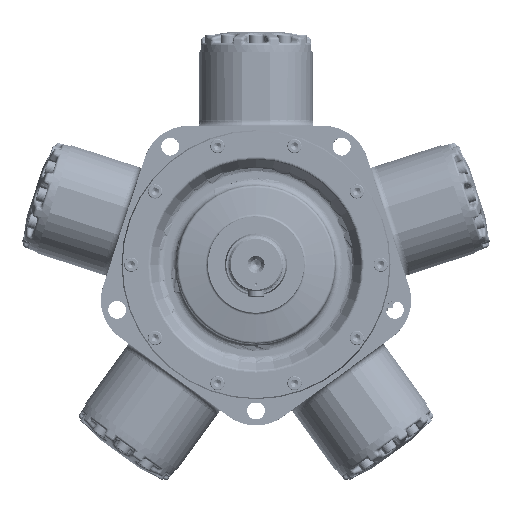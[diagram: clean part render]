
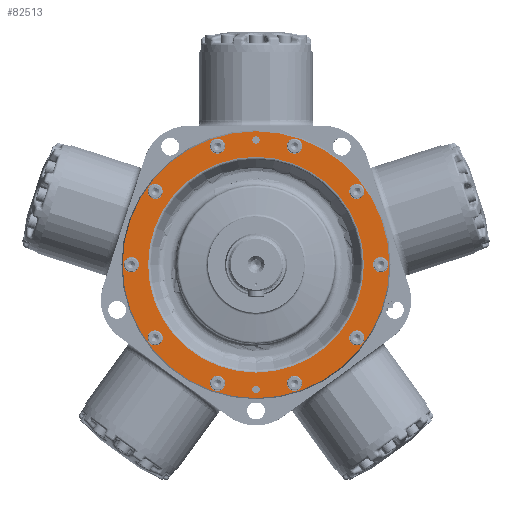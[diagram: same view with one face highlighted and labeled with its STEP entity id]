
A CAD part, top view. The second image highlights one B-rep face of the part: STEP entity #82513.
In plain terms, the highlighted planar face has unit normal (0, 0, 1).
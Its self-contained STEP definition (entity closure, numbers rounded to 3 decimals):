
#1786=FACE_BOUND('',#18631,.T.);
#1787=FACE_BOUND('',#18632,.T.);
#1788=FACE_BOUND('',#18633,.T.);
#1789=FACE_BOUND('',#18634,.T.);
#1790=FACE_BOUND('',#18635,.T.);
#1791=FACE_BOUND('',#18636,.T.);
#1792=FACE_BOUND('',#18637,.T.);
#1793=FACE_BOUND('',#18638,.T.);
#1794=FACE_BOUND('',#18639,.T.);
#1795=FACE_BOUND('',#18640,.T.);
#1796=FACE_BOUND('',#18641,.T.);
#1797=FACE_BOUND('',#18642,.T.);
#1798=FACE_BOUND('',#18643,.T.);
#2132=PLANE('',#88077);
#13345=FACE_OUTER_BOUND('',#18630,.T.);
#18630=EDGE_LOOP('',(#52544));
#18631=EDGE_LOOP('',(#52545));
#18632=EDGE_LOOP('',(#52546));
#18633=EDGE_LOOP('',(#52547));
#18634=EDGE_LOOP('',(#52548));
#18635=EDGE_LOOP('',(#52549));
#18636=EDGE_LOOP('',(#52550));
#18637=EDGE_LOOP('',(#52551));
#18638=EDGE_LOOP('',(#52552));
#18639=EDGE_LOOP('',(#52553));
#18640=EDGE_LOOP('',(#52554));
#18641=EDGE_LOOP('',(#52555));
#18642=EDGE_LOOP('',(#52556));
#18643=EDGE_LOOP('',(#52557));
#24048=CIRCLE('',#88046,4.188);
#24050=CIRCLE('',#88049,4.188);
#24052=CIRCLE('',#88052,8.5);
#24053=CIRCLE('',#88054,8.5);
#24054=CIRCLE('',#88056,8.5);
#24055=CIRCLE('',#88058,8.5);
#24056=CIRCLE('',#88060,8.5);
#24057=CIRCLE('',#88062,8.5);
#24058=CIRCLE('',#88064,8.5);
#24059=CIRCLE('',#88066,8.5);
#24060=CIRCLE('',#88068,8.5);
#24061=CIRCLE('',#88070,8.5);
#24062=CIRCLE('',#88072,149.491);
#24066=CIRCLE('',#88078,120.896);
#31553=VERTEX_POINT('',#137751);
#31555=VERTEX_POINT('',#137757);
#31557=VERTEX_POINT('',#137763);
#31558=VERTEX_POINT('',#137767);
#31559=VERTEX_POINT('',#137771);
#31560=VERTEX_POINT('',#137775);
#31561=VERTEX_POINT('',#137779);
#31562=VERTEX_POINT('',#137783);
#31563=VERTEX_POINT('',#137787);
#31564=VERTEX_POINT('',#137791);
#31565=VERTEX_POINT('',#137795);
#31566=VERTEX_POINT('',#137799);
#31567=VERTEX_POINT('',#137803);
#31571=VERTEX_POINT('',#137815);
#39251=EDGE_CURVE('',#31553,#31553,#24048,.T.);
#39254=EDGE_CURVE('',#31555,#31555,#24050,.T.);
#39258=EDGE_CURVE('',#31557,#31557,#24052,.T.);
#39260=EDGE_CURVE('',#31558,#31558,#24053,.T.);
#39262=EDGE_CURVE('',#31559,#31559,#24054,.T.);
#39264=EDGE_CURVE('',#31560,#31560,#24055,.T.);
#39266=EDGE_CURVE('',#31561,#31561,#24056,.T.);
#39268=EDGE_CURVE('',#31562,#31562,#24057,.T.);
#39270=EDGE_CURVE('',#31563,#31563,#24058,.T.);
#39272=EDGE_CURVE('',#31564,#31564,#24059,.T.);
#39274=EDGE_CURVE('',#31565,#31565,#24060,.T.);
#39276=EDGE_CURVE('',#31566,#31566,#24061,.T.);
#39277=EDGE_CURVE('',#31567,#31567,#24062,.T.);
#39283=EDGE_CURVE('',#31571,#31571,#24066,.T.);
#52544=ORIENTED_EDGE('',*,*,#39277,.F.);
#52545=ORIENTED_EDGE('',*,*,#39251,.T.);
#52546=ORIENTED_EDGE('',*,*,#39254,.T.);
#52547=ORIENTED_EDGE('',*,*,#39258,.T.);
#52548=ORIENTED_EDGE('',*,*,#39260,.T.);
#52549=ORIENTED_EDGE('',*,*,#39262,.T.);
#52550=ORIENTED_EDGE('',*,*,#39264,.T.);
#52551=ORIENTED_EDGE('',*,*,#39266,.T.);
#52552=ORIENTED_EDGE('',*,*,#39268,.T.);
#52553=ORIENTED_EDGE('',*,*,#39270,.T.);
#52554=ORIENTED_EDGE('',*,*,#39272,.T.);
#52555=ORIENTED_EDGE('',*,*,#39274,.T.);
#52556=ORIENTED_EDGE('',*,*,#39276,.T.);
#52557=ORIENTED_EDGE('',*,*,#39283,.T.);
#82513=ADVANCED_FACE('',(#13345,#1786,#1787,#1788,#1789,#1790,#1791,#1792,
#1793,#1794,#1795,#1796,#1797,#1798),#2132,.T.);
#88046=AXIS2_PLACEMENT_3D('',#137752,#96559,#96560);
#88049=AXIS2_PLACEMENT_3D('',#137758,#96566,#96567);
#88052=AXIS2_PLACEMENT_3D('',#137765,#96574,#96575);
#88054=AXIS2_PLACEMENT_3D('',#137769,#96579,#96580);
#88056=AXIS2_PLACEMENT_3D('',#137773,#96584,#96585);
#88058=AXIS2_PLACEMENT_3D('',#137777,#96589,#96590);
#88060=AXIS2_PLACEMENT_3D('',#137781,#96594,#96595);
#88062=AXIS2_PLACEMENT_3D('',#137785,#96599,#96600);
#88064=AXIS2_PLACEMENT_3D('',#137789,#96604,#96605);
#88066=AXIS2_PLACEMENT_3D('',#137793,#96609,#96610);
#88068=AXIS2_PLACEMENT_3D('',#137797,#96614,#96615);
#88070=AXIS2_PLACEMENT_3D('',#137801,#96619,#96620);
#88072=AXIS2_PLACEMENT_3D('',#137804,#96623,#96624);
#88077=AXIS2_PLACEMENT_3D('',#137814,#96635,#96636);
#88078=AXIS2_PLACEMENT_3D('',#137816,#96637,#96638);
#96559=DIRECTION('center_axis',(0.,0.,
-1.));
#96560=DIRECTION('ref_axis',(-1.,0.,0.));
#96566=DIRECTION('center_axis',(0.,0.,
-1.));
#96567=DIRECTION('ref_axis',(-1.,0.,0.));
#96574=DIRECTION('center_axis',(0.,0.,
-1.));
#96575=DIRECTION('ref_axis',(0.809,-0.588,0.));
#96579=DIRECTION('center_axis',(0.,0.,
-1.));
#96580=DIRECTION('ref_axis',(0.309,-0.951,0.));
#96584=DIRECTION('center_axis',(0.,0.,
-1.));
#96585=DIRECTION('ref_axis',(-0.309,-0.951,0.));
#96589=DIRECTION('center_axis',(0.,0.,
-1.));
#96590=DIRECTION('ref_axis',(-0.809,-0.588,0.));
#96594=DIRECTION('center_axis',(0.,0.,
-1.));
#96595=DIRECTION('ref_axis',(-1.,0.,0.));
#96599=DIRECTION('center_axis',(0.,0.,
-1.));
#96600=DIRECTION('ref_axis',(-0.809,0.588,0.));
#96604=DIRECTION('center_axis',(0.,0.,
-1.));
#96605=DIRECTION('ref_axis',(-0.309,0.951,0.));
#96609=DIRECTION('center_axis',(0.,0.,
-1.));
#96610=DIRECTION('ref_axis',(0.309,0.951,0.));
#96614=DIRECTION('center_axis',(0.,0.,
-1.));
#96615=DIRECTION('ref_axis',(0.809,0.588,0.));
#96619=DIRECTION('center_axis',(0.,0.,
-1.));
#96620=DIRECTION('ref_axis',(1.,0.,0.));
#96623=DIRECTION('center_axis',(0.,0.,
-1.));
#96624=DIRECTION('ref_axis',(0.,1.,0.));
#96635=DIRECTION('center_axis',(0.,0.,
1.));
#96636=DIRECTION('ref_axis',(-1.,0.,0.));
#96637=DIRECTION('center_axis',(0.,0.,
-1.));
#96638=DIRECTION('ref_axis',(0.,-1.,0.));
#137751=CARTESIAN_POINT('',(4.188,-139.7,85.078));
#137752=CARTESIAN_POINT('Origin',(0.,-139.7,85.078));
#137757=CARTESIAN_POINT('',(4.188,139.7,85.078));
#137758=CARTESIAN_POINT('Origin',(0.,139.7,85.078));
#137763=CARTESIAN_POINT('',(-119.896,87.11,85.078));
#137765=CARTESIAN_POINT('Origin',(-113.02,82.114,85.078));
#137767=CARTESIAN_POINT('',(-45.796,140.947,85.078));
#137769=CARTESIAN_POINT('Origin',(-43.17,132.863,85.078));
#137771=CARTESIAN_POINT('',(45.796,140.947,85.078));
#137773=CARTESIAN_POINT('Origin',(43.17,132.863,85.078));
#137775=CARTESIAN_POINT('',(119.896,87.11,85.078));
#137777=CARTESIAN_POINT('Origin',(113.02,82.114,85.078));
#137779=CARTESIAN_POINT('',(148.2,0.,85.078));
#137781=CARTESIAN_POINT('Origin',(139.7,0.,85.078));
#137783=CARTESIAN_POINT('',(119.896,-87.11,85.078));
#137785=CARTESIAN_POINT('Origin',(113.02,-82.114,85.078));
#137787=CARTESIAN_POINT('',(45.796,-140.947,85.078));
#137789=CARTESIAN_POINT('Origin',(43.17,-132.863,85.078));
#137791=CARTESIAN_POINT('',(-45.796,-140.947,85.078));
#137793=CARTESIAN_POINT('Origin',(-43.17,-132.863,85.078));
#137795=CARTESIAN_POINT('',(-119.896,-87.11,85.078));
#137797=CARTESIAN_POINT('Origin',(-113.02,-82.114,85.078));
#137799=CARTESIAN_POINT('',(-148.2,0.,85.078));
#137801=CARTESIAN_POINT('Origin',(-139.7,0.,85.078));
#137803=CARTESIAN_POINT('',(0.,-149.491,85.078));
#137804=CARTESIAN_POINT('Origin',(0.,0.,
85.078));
#137814=CARTESIAN_POINT('Origin',(0.,-135.854,
85.078));
#137815=CARTESIAN_POINT('',(-120.896,0.,85.078));
#137816=CARTESIAN_POINT('Origin',(0.,0.,
85.078));
